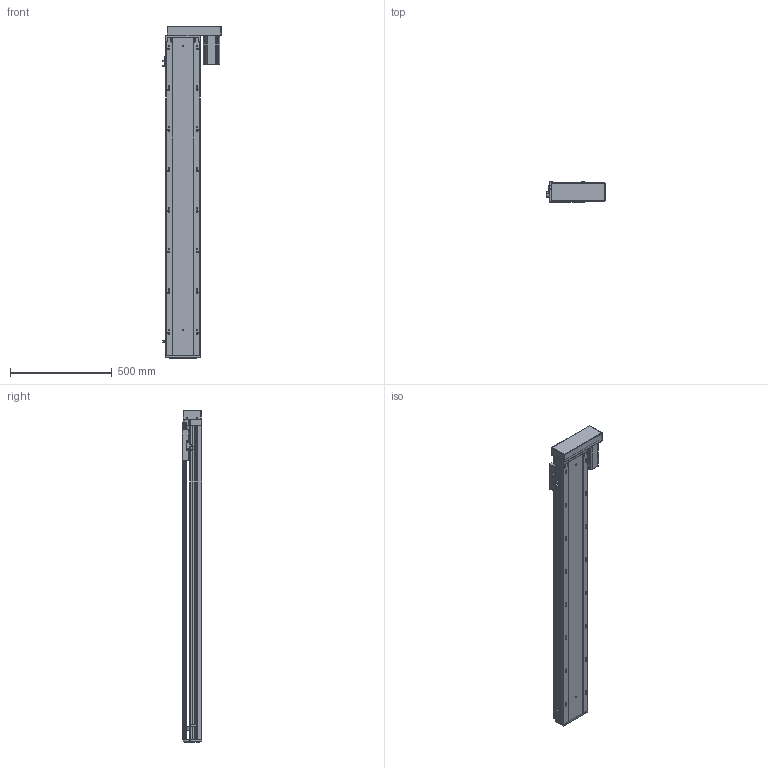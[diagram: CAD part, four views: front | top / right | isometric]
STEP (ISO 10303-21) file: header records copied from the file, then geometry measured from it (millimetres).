
FILE_DESCRIPTION (( 'STEP AP203' ), '1' );
FILE_NAME ('RY170-L2510-1400-RK.SLDASM_1300.step', '2021-03-12T09:37:40', ( '盈信电脑' ), ( '东莞市道滘镇水果街19号' ), 'SwSTEP 2.0', 'SolidWorks 2012', '' );
FILE_SCHEMA (( 'CONFIG_CONTROL_DESIGN' ));
Length unit declared in the file: millimetre
Products named in the file (13): 覜茼ん672; RY170-酘衵殏750W萇儂傷; RY170外置感应片(200共用）; RY170-L2510-1400-RK.SLDASM_1300; RY170转折电机端支撑座(7004); RY170-左右折电机安装板750W; RY170酘衵殏萇儂欶750W; 怢湛750W萇儂ㄗ80遺ㄘ; RY170-1400倰第裔啣-LK_1300; 改造-RY170铝滑块25丝杆螺母; 滅袉蝶18-20; RY170綴裔啣; RY170-1400倰第菁釱-LK_1300
Assembly tree (15 placements, depth 3):
  RY170-L2510-1400-RK.SLDASM_1300
    RY170-1400倰第菁釱-LK_1300
    改造-RY170铝滑块25丝杆螺母
    RY170-1400倰第裔啣-LK_1300
    RY170綴裔啣
    滅袉蝶18-20  x2
    RY170转折电机端支撑座(7004)
    RY170-酘衵殏750W萇儂傷
      RY170-左右折电机安装板750W
      RY170酘衵殏萇儂欶750W
      怢湛750W萇儂ㄗ80遺ㄘ
    覜茼ん672  x3
    RY170外置感应片(200共用）
Bounding box: 286.2 x 97 x 1635 mm (x, y, z)
Volume: 8593835.1 mm3; surface area: 2740234.5 mm2
Topology: 14 solids, 14 shells, 2269 faces, 6498 edges, 4152 vertices
Faces by surface type: plane 1090, cylinder 950, cone 210, bspline 19
Entity records: 73026 total; most frequent: CARTESIAN_POINT 17573, ORIENTED_EDGE 11632, DIRECTION 10808, EDGE_CURVE 5816, VERTEX_POINT 3820, AXIS2_PLACEMENT_3D 3625, LINE 3558, VECTOR 3558
